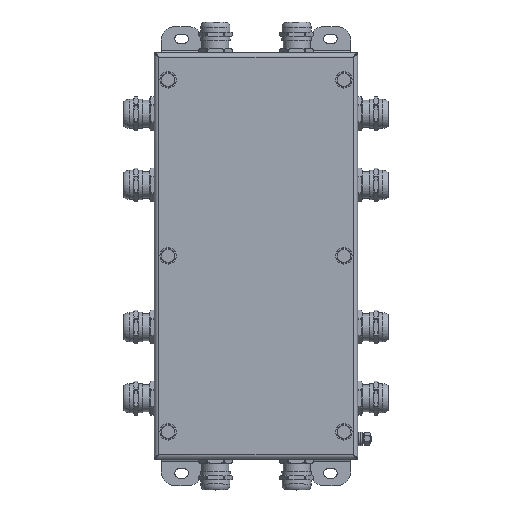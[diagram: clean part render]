
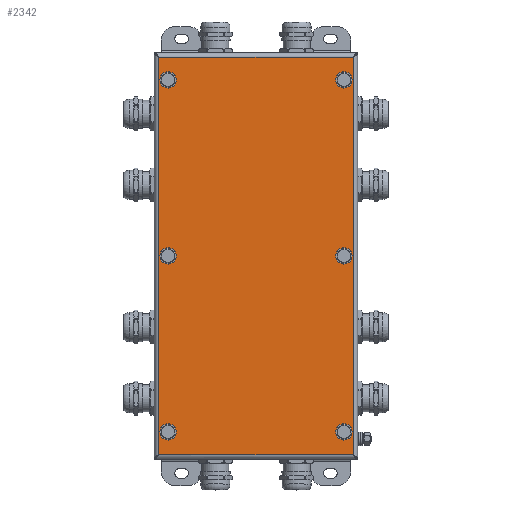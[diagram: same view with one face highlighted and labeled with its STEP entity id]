
A CAD part, top view. The second image highlights one B-rep face of the part: STEP entity #2342.
In plain terms, the highlighted planar face has unit normal (0, 0, 1).
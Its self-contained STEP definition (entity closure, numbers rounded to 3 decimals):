
#2342=ADVANCED_FACE('',(#15664,#15666,#15668,#15670,#15672,#15674,#15676),#15678,
.T.);
#15664=FACE_BOUND('',#15665,.T.);
#15665=EDGE_LOOP('',(#22204,#22205,#22206,#22207));
#15666=FACE_BOUND('',#15667,.T.);
#15667=EDGE_LOOP('',(#22208));
#15668=FACE_BOUND('',#15669,.T.);
#15669=EDGE_LOOP('',(#22209));
#15670=FACE_BOUND('',#15671,.T.);
#15671=EDGE_LOOP('',(#22210));
#15672=FACE_BOUND('',#15673,.T.);
#15673=EDGE_LOOP('',(#22211));
#15674=FACE_BOUND('',#15675,.T.);
#15675=EDGE_LOOP('',(#22212));
#15676=FACE_BOUND('',#15677,.T.);
#15677=EDGE_LOOP('',(#22213));
#15678=PLANE('',#15679);
#15679=AXIS2_PLACEMENT_3D('',#15680,#15681,#15682);
#15680=CARTESIAN_POINT('',(0.,0.,61.5));
#15681=DIRECTION('',(0.,-0.,1.));
#15682=DIRECTION('',(0.,1.,0.));
#22204=ORIENTED_EDGE('',*,*,#27313,.T.);
#22205=ORIENTED_EDGE('',*,*,#27314,.T.);
#22206=ORIENTED_EDGE('',*,*,#27315,.T.);
#22207=ORIENTED_EDGE('',*,*,#27316,.T.);
#22208=ORIENTED_EDGE('',*,*,#25318,.T.);
#22209=ORIENTED_EDGE('',*,*,#25312,.T.);
#22210=ORIENTED_EDGE('',*,*,#25306,.T.);
#22211=ORIENTED_EDGE('',*,*,#25300,.T.);
#22212=ORIENTED_EDGE('',*,*,#25294,.T.);
#22213=ORIENTED_EDGE('',*,*,#25288,.T.);
#25288=EDGE_CURVE('',#34979,#34979,#34980,.F.);
#25294=EDGE_CURVE('',#34991,#34991,#34992,.F.);
#25300=EDGE_CURVE('',#35003,#35003,#35004,.F.);
#25306=EDGE_CURVE('',#35015,#35015,#35016,.F.);
#25312=EDGE_CURVE('',#35027,#35027,#35028,.F.);
#25318=EDGE_CURVE('',#35039,#35039,#35040,.F.);
#27313=EDGE_CURVE('',#35995,#35996,#35997,.T.);
#27314=EDGE_CURVE('',#35996,#35998,#35999,.T.);
#27315=EDGE_CURVE('',#35998,#36000,#36001,.T.);
#27316=EDGE_CURVE('',#36000,#35995,#36002,.T.);
#34979=VERTEX_POINT('',#38274);
#34980=CIRCLE('',#38275,6.);
#34991=VERTEX_POINT('',#38304);
#34992=CIRCLE('',#38305,6.);
#35003=VERTEX_POINT('',#38334);
#35004=CIRCLE('',#38335,6.);
#35015=VERTEX_POINT('',#38364);
#35016=CIRCLE('',#38365,6.);
#35027=VERTEX_POINT('',#38394);
#35028=CIRCLE('',#38395,6.);
#35039=VERTEX_POINT('',#38424);
#35040=CIRCLE('',#38425,6.);
#35995=VERTEX_POINT('',#40654);
#35996=VERTEX_POINT('',#40655);
#35997=LINE('',#40656,#40657);
#35998=VERTEX_POINT('',#40659);
#35999=LINE('',#40660,#40661);
#36000=VERTEX_POINT('',#40663);
#36001=LINE('',#40664,#40665);
#36002=LINE('',#40667,#40668);
#38274=CARTESIAN_POINT('',(71.,130.,61.5));
#38275=AXIS2_PLACEMENT_3D('',#38276,#38277,#38278);
#38276=CARTESIAN_POINT('',(65.,130.,61.5));
#38277=DIRECTION('',(0.,-0.,1.));
#38278=DIRECTION('',(1.,0.,0.));
#38304=CARTESIAN_POINT('',(-59.,130.,61.5));
#38305=AXIS2_PLACEMENT_3D('',#38306,#38307,#38308);
#38306=CARTESIAN_POINT('',(-65.,130.,61.5));
#38307=DIRECTION('',(0.,-0.,1.));
#38308=DIRECTION('',(1.,0.,0.));
#38334=CARTESIAN_POINT('',(71.,0.,61.5));
#38335=AXIS2_PLACEMENT_3D('',#38336,#38337,#38338);
#38336=CARTESIAN_POINT('',(65.,0.,61.5));
#38337=DIRECTION('',(0.,-0.,1.));
#38338=DIRECTION('',(1.,0.,0.));
#38364=CARTESIAN_POINT('',(-59.,0.,61.5));
#38365=AXIS2_PLACEMENT_3D('',#38366,#38367,#38368);
#38366=CARTESIAN_POINT('',(-65.,0.,61.5));
#38367=DIRECTION('',(0.,-0.,1.));
#38368=DIRECTION('',(1.,0.,0.));
#38394=CARTESIAN_POINT('',(71.,-130.,61.5));
#38395=AXIS2_PLACEMENT_3D('',#38396,#38397,#38398);
#38396=CARTESIAN_POINT('',(65.,-130.,61.5));
#38397=DIRECTION('',(0.,-0.,1.));
#38398=DIRECTION('',(1.,0.,0.));
#38424=CARTESIAN_POINT('',(-59.,-130.,61.5));
#38425=AXIS2_PLACEMENT_3D('',#38426,#38427,#38428);
#38426=CARTESIAN_POINT('',(-65.,-130.,61.5));
#38427=DIRECTION('',(0.,-0.,1.));
#38428=DIRECTION('',(1.,0.,0.));
#40654=CARTESIAN_POINT('',(-71.8,146.8,61.5));
#40655=CARTESIAN_POINT('',(-71.8,-146.8,61.5));
#40656=CARTESIAN_POINT('',(-71.8,146.8,61.5));
#40657=VECTOR('',#40658,1.);
#40658=DIRECTION('',(0.,-1.,0.));
#40659=CARTESIAN_POINT('',(71.8,-146.8,61.5));
#40660=CARTESIAN_POINT('',(-71.8,-146.8,61.5));
#40661=VECTOR('',#40662,1.);
#40662=DIRECTION('',(1.,0.,0.));
#40663=CARTESIAN_POINT('',(71.8,146.8,61.5));
#40664=CARTESIAN_POINT('',(71.8,-146.8,61.5));
#40665=VECTOR('',#40666,1.);
#40666=DIRECTION('',(0.,1.,0.));
#40667=CARTESIAN_POINT('',(71.8,146.8,61.5));
#40668=VECTOR('',#40669,1.);
#40669=DIRECTION('',(-1.,0.,0.));
